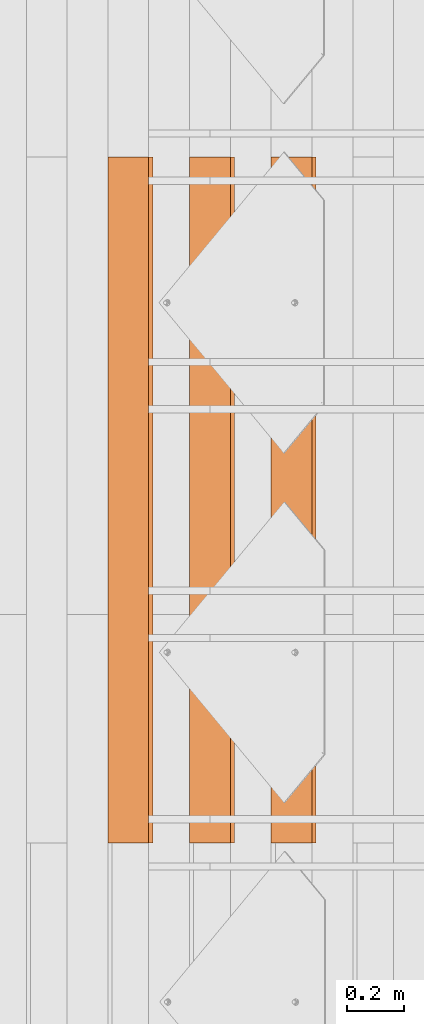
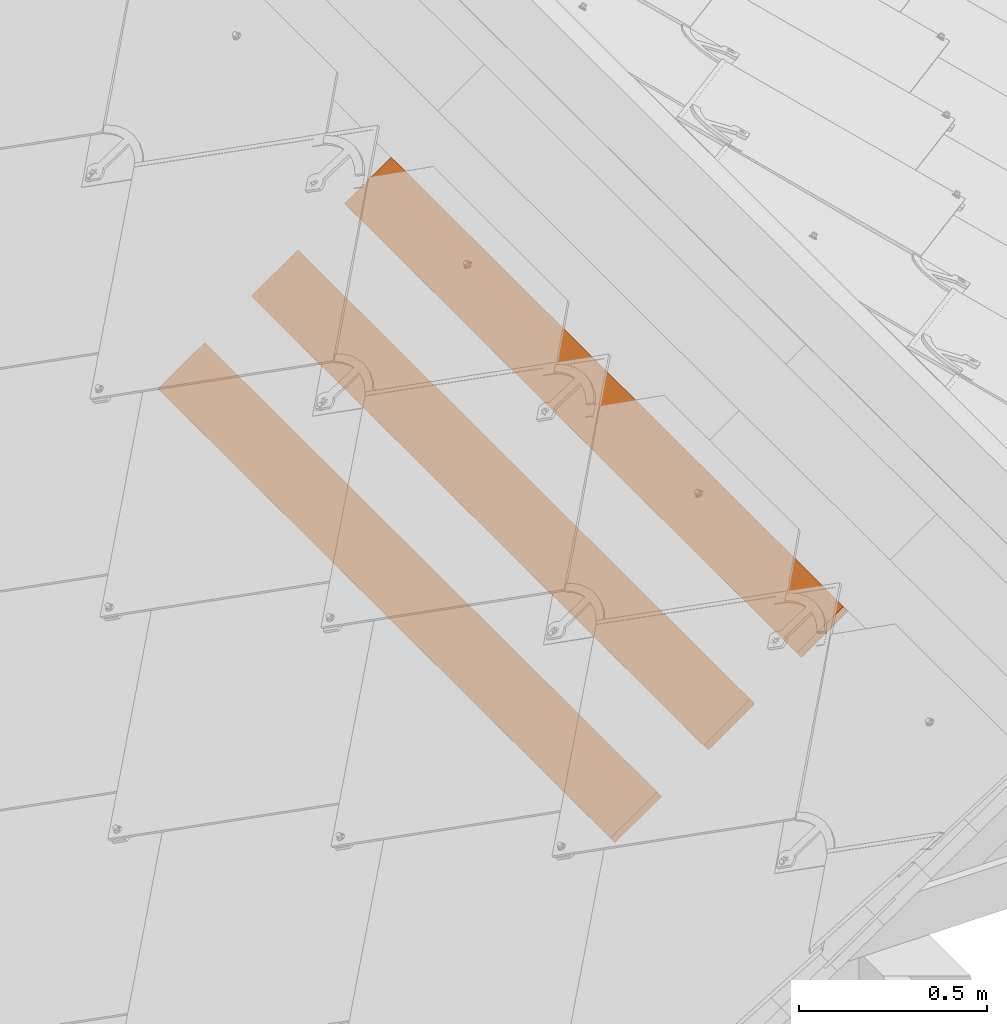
# One storey, part 37 of 151: 3 proxies, 1 element without a shape of its own.
"""IFC2X3 building model written with IfcOpenShell, lengths in millimetres."""

from ifc_helpers import new_model, entity, si_unit, converted_unit, derived_unit, direction, frame, frame_2d, origin, place, context, subcontext, project, spatial, rectangle, extrude, source, transform, mapped, material, type_object, type_shapes, element, aggregate, save


model = new_model("IFC2X3")

# Units and contexts
model_context = context("Model", 3, precision=0.01, world=origin(), true_north=direction((6.12303176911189e-17, 1.0)))
body_context = subcontext(model_context, "Body", "Model", "MODEL_VIEW")
ifc_project = project(units=[si_unit("LENGTHUNIT", "METRE", prefix="MILLI"), si_unit("AREAUNIT", "SQUARE_METRE"), si_unit("VOLUMEUNIT", "CUBIC_METRE"), converted_unit("PLANEANGLEUNIT", "DEGREE", entity("IfcRatioMeasure", 0.0174532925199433), si_unit("PLANEANGLEUNIT", "RADIAN"), dimensions=[0, 0, 0, 0, 0, 0, 0]), si_unit("MASSUNIT", "GRAM", prefix="KILO"), derived_unit("MASSDENSITYUNIT", [(si_unit("MASSUNIT", "GRAM", prefix="KILO"), 1), (si_unit("LENGTHUNIT", "METRE"), -3)]), si_unit("TIMEUNIT", "SECOND"), si_unit("FREQUENCYUNIT", "HERTZ"), si_unit("THERMODYNAMICTEMPERATUREUNIT", "DEGREE_CELSIUS"), derived_unit("THERMALTRANSMITTANCEUNIT", [(si_unit("MASSUNIT", "GRAM", prefix="KILO"), 1), (si_unit("THERMODYNAMICTEMPERATUREUNIT", "KELVIN"), -1), (si_unit("TIMEUNIT", "SECOND"), -3)]), derived_unit("VOLUMETRICFLOWRATEUNIT", [(si_unit("LENGTHUNIT", "METRE"), 3), (si_unit("TIMEUNIT", "SECOND"), -1)]), si_unit("ELECTRICCURRENTUNIT", "AMPERE"), si_unit("ELECTRICVOLTAGEUNIT", "VOLT"), si_unit("POWERUNIT", "WATT"), si_unit("FORCEUNIT", "NEWTON", prefix="KILO"), si_unit("ILLUMINANCEUNIT", "LUX"), si_unit("LUMINOUSFLUXUNIT", "LUMEN"), si_unit("LUMINOUSINTENSITYUNIT", "CANDELA"), derived_unit("USERDEFINED", [(si_unit("MASSUNIT", "GRAM", prefix="KILO"), -1), (si_unit("LENGTHUNIT", "METRE"), -2), (si_unit("TIMEUNIT", "SECOND"), 3), (si_unit("LUMINOUSFLUXUNIT", "LUMEN"), 1)]), derived_unit("LINEARVELOCITYUNIT", [(si_unit("LENGTHUNIT", "METRE"), 1), (si_unit("TIMEUNIT", "SECOND"), -1)]), si_unit("PRESSUREUNIT", "PASCAL"), derived_unit("USERDEFINED", [(si_unit("LENGTHUNIT", "METRE"), -2), (si_unit("MASSUNIT", "GRAM", prefix="KILO"), 1), (si_unit("TIMEUNIT", "SECOND"), -2)])], contexts=[model_context])

# Site, building, storey
site_placement = place(None, origin())
site = spatial("IfcSite", under=ifc_project, at=site_placement, Name="Default", CompositionType="ELEMENT")
building_placement = place(site_placement, origin())
building = spatial("IfcBuilding", under=site, at=building_placement, CompositionType="ELEMENT")
storey_placement = place(building_placement, origin())
storey = spatial("IfcBuildingStorey", under=building, at=storey_placement, Name="Level 1", CompositionType="ELEMENT", Elevation=0.0)

# Assembly, proxies
assembly_placement = place(storey_placement, origin())
assembly = element("IfcElementAssembly", 1, at=assembly_placement, inside=storey, Name="Structural Framing Assembly:Roof Construction Assembly", ObjectType="Structural Framing Assembly:Roof Construction Assembly", AssemblyPlace="NOTDEFINED", PredefinedType="USERDEFINED")
ifc_material = material(Name="Wood - Generic - Wood For Showcase")
building_element_proxy_type_1 = type_object("IfcBuildingElementProxyType", Name="Structural Framing 15", PredefinedType="NOTDEFINED", material=ifc_material)
shared_shape_1 = source(origin(), body_context, "Body", "SweptSolid", [
    extrude(rectangle(XDim=24.9999999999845, YDim=174.344679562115, at=frame_2d((-1.77635683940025e-13, -4.54747350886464e-13), x_axis=(0.0, 1.0))), frame((1128.20180147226, 1595.55080214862, 2760.23940055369), z_axis=(0.0, 1.0, 0.0), x_axis=(-0.819152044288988, 0.0, -0.573576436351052)), (0.0, 0.0, 1.0), 2400.00000000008),
])
type_shapes(building_element_proxy_type_1, [shared_shape_1])
proxy_1_placement = place(assembly_placement, frame((-370.956530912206, -5740.0, -300.0)))
proxy_1 = element("IfcBuildingElementProxy", 2, at=proxy_1_placement, type_object=building_element_proxy_type_1, material=ifc_material, Name="Structural Framing 32:Structural Framing 15", ObjectType="Structural Framing 32:Structural Framing 15", context=body_context, shape_type="MappedRepresentation", body=[
    mapped(shared_shape_1, transform((0.0, 0.0, 0.0), scale=1.0)),
])
building_element_proxy_type_2 = type_object("IfcBuildingElementProxyType", Name="Structural Framing 15", PredefinedType="NOTDEFINED", material=ifc_material)
shared_shape_2 = source(origin(), body_context, "Body", "SweptSolid", [
    extrude(rectangle(XDim=24.9999999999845, YDim=174.344679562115, at=frame_2d((-1.77635683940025e-13, -4.54747350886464e-13), x_axis=(0.0, 1.0))), frame((1128.20180147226, 1595.55080214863, 2760.23940055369), z_axis=(0.0, 1.0, 0.0), x_axis=(-0.819152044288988, 0.0, -0.573576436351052)), (0.0, 0.0, 1.0), 2400.00000000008),
])
type_shapes(building_element_proxy_type_2, [shared_shape_2])
proxy_2_placement = place(assembly_placement, frame((-656.586132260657, -5740.0, -500.0)))
proxy_2 = element("IfcBuildingElementProxy", 3, at=proxy_2_placement, type_object=building_element_proxy_type_2, material=ifc_material, Name="Structural Framing 42:Structural Framing 15", ObjectType="Structural Framing 42:Structural Framing 15", context=body_context, shape_type="MappedRepresentation", body=[
    mapped(shared_shape_2, transform((0.0, 0.0, 0.0), scale=1.0)),
])
building_element_proxy_type_3 = type_object("IfcBuildingElementProxyType", Name="Structural Framing 15", PredefinedType="NOTDEFINED", material=ifc_material)
shared_shape_3 = source(origin(), body_context, "Body", "SweptSolid", [
    extrude(rectangle(XDim=24.9999999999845, YDim=174.344679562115, at=frame_2d((-1.77635683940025e-13, -4.54747350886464e-13), x_axis=(0.0, 1.0))), frame((1128.20180147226, 1595.55080214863, 2760.23940055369), z_axis=(0.0, 1.0, 0.0), x_axis=(-0.819152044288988, 0.0, -0.573576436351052)), (0.0, 0.0, 1.0), 2400.00000000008),
])
type_shapes(building_element_proxy_type_3, [shared_shape_3])
proxy_3_placement = place(assembly_placement, frame((-942.215733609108, -5740.0, -700.0)))
proxy_3 = element("IfcBuildingElementProxy", 4, at=proxy_3_placement, type_object=building_element_proxy_type_3, material=ifc_material, Name="Structural Framing 52:Structural Framing 15", ObjectType="Structural Framing 52:Structural Framing 15", context=body_context, shape_type="MappedRepresentation", body=[
    mapped(shared_shape_3, transform((0.0, 0.0, 0.0), scale=1.0)),
])
aggregate(assembly, [proxy_1, proxy_2, proxy_3])

save(model, "model.ifc")
